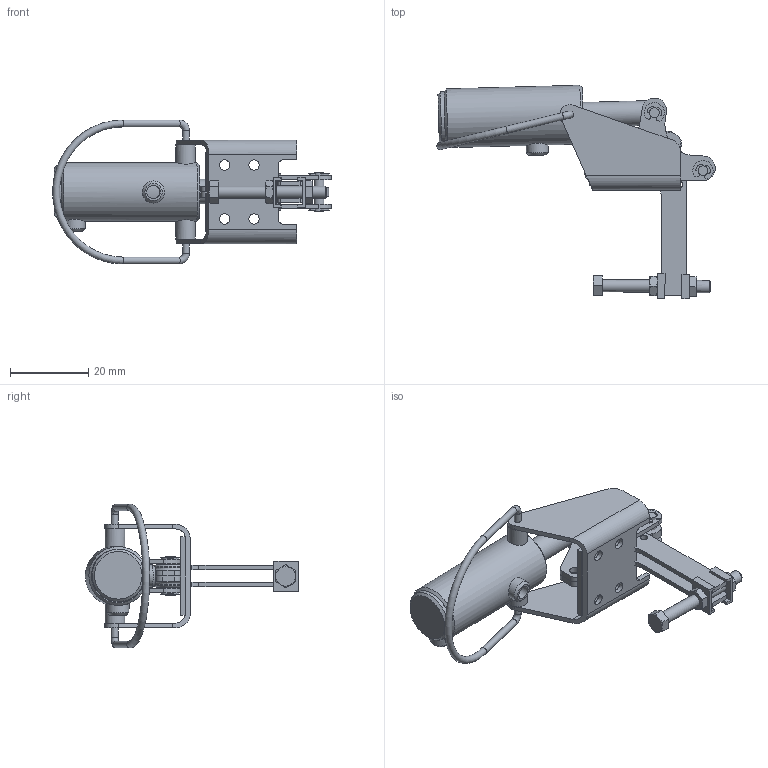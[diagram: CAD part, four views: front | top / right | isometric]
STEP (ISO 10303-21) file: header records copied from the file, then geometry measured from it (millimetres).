
FILE_DESCRIPTION((' '),'2;1');
FILE_NAME('C:\Users\Nick\Desktop\AOV-201.stp','2015-05-21T14:07:49',(' '),(' '),' ','ACIS',' ');
FILE_SCHEMA(('CONFIG_CONTROL_DESIGN'));
Length unit declared in the file: inch
Products named in the file (34): C:\Users\Nick\Desktop\AOV-201.stp; Body1; Body2; Body3; Body4; Body5; Body6; Body7; Body8; Body9; Body10; Body11; Body12; Body13; Body14; Body15; Body16; Body17; Body18; Body19; Body20; Body21; Body22; Body23; Body24; Body25; Body26; Body27; Body28; Body29; Body30; Body31; Body32; Body33
Assembly tree (33 placements, depth 2):
  C:\Users\Nick\Desktop\AOV-201.stp
    Body1
    Body2
    Body3
    Body4
    Body5
    Body6
    Body7
    Body8
    Body9
    Body10
    Body11
    Body12
    Body13
    Body14
    Body15
    Body16
    Body17
    Body18
    Body19
    Body20
    Body21
    Body22
    Body23
    Body24
    Body25
    Body26
    Body27
    Body28
    Body29
    Body30
    Body31
    Body32
    Body33
Bounding box: 71.02 x 54.43 x 36.72 mm (x, y, z)
Volume: 8780.2 mm3; surface area: 14190.5 mm2
Topology: 33 solids, 33 shells, 438 faces, 1062 edges, 697 vertices
Faces by surface type: plane 218, cylinder 170, cone 40, torus 9, bspline 1
Full cylindrical faces by diameter (mm): 1.565 x1, 1.77 x4, 1.84 x1, 1.87 x8, 1.875 x6, 1.88 x2, 2.187 x2, 2.5 x3, 2.52 x2, 2.66 x10, 3.125 x1, 3.28 x2, 3.43 x4, 4.375 x1, 5 x2, 5.625 x3, 6.25 x2, 13.125 x1, 13.4 x1, 15 x1
Entity records: 17851 total; most frequent: CARTESIAN_POINT 2919, DIRECTION 2244, ORIENTED_EDGE 1924, EDGE_CURVE 962, AXIS2_PLACEMENT_3D 874, VERTEX_POINT 671, EDGE_LOOP 583, VECTOR 496
